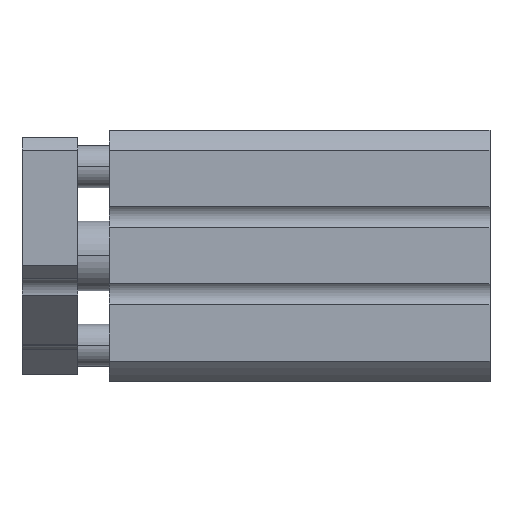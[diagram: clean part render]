
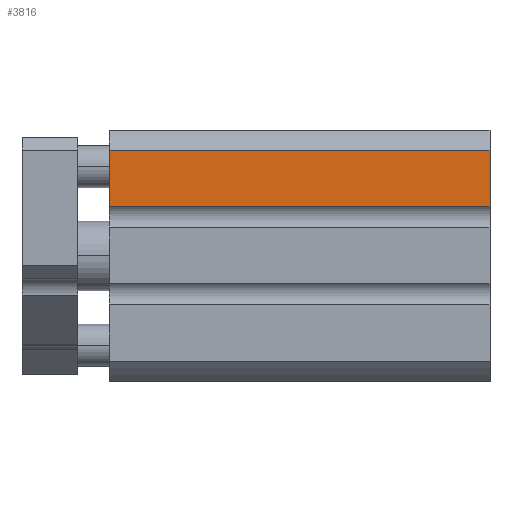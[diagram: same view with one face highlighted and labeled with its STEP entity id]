
A CAD part, top view. The second image highlights one B-rep face of the part: STEP entity #3816.
In plain terms, the highlighted planar face has unit normal (0, 0, 1).
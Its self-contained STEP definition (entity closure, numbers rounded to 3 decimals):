
#134 = AXIS2_PLACEMENT_3D ( 'NONE', #3563, #3540, #2442 ) ;
#180 = PLANE ( 'NONE',  #134 ) ;
#210 = VERTEX_POINT ( 'NONE', #3502 ) ;
#258 = CARTESIAN_POINT ( 'NONE',  ( 0., 7., 18. ) ) ;
#815 = VECTOR ( 'NONE', #3015, 1000. ) ;
#938 = DIRECTION ( 'NONE',  ( 0., -1., 0. ) ) ;
#1162 = CARTESIAN_POINT ( 'NONE',  ( 54.5, 15.108, 18. ) ) ;
#1395 = EDGE_CURVE ( 'NONE', #3720, #210, #3190, .T. ) ;
#1573 = DIRECTION ( 'NONE',  ( -1., 0., 0. ) ) ;
#1862 = CARTESIAN_POINT ( 'NONE',  ( 54.5, 7., 18. ) ) ;
#1944 = CARTESIAN_POINT ( 'NONE',  ( 0., 15.108, 18. ) ) ;
#1993 = VERTEX_POINT ( 'NONE', #258 ) ;
#2126 = VECTOR ( 'NONE', #1573, 1000. ) ;
#2437 = VECTOR ( 'NONE', #938, 1000. ) ;
#2442 = DIRECTION ( 'NONE',  ( 0., -1., 0. ) ) ;
#2623 = LINE ( 'NONE', #1862, #2126 ) ;
#2662 = EDGE_CURVE ( 'NONE', #3720, #4263, #3580, .T. ) ;
#2718 = ORIENTED_EDGE ( 'NONE', *, *, #2662, .T. ) ;
#2729 = ORIENTED_EDGE ( 'NONE', *, *, #2817, .T. ) ;
#2817 = EDGE_CURVE ( 'NONE', #4263, #1993, #4599, .T. ) ;
#3015 = DIRECTION ( 'NONE',  ( -1., 0., 0. ) ) ;
#3190 = LINE ( 'NONE', #4320, #2437 ) ;
#3205 = CARTESIAN_POINT ( 'NONE',  ( 0., 15.108, 18. ) ) ;
#3210 = EDGE_CURVE ( 'NONE', #210, #1993, #2623, .T. ) ;
#3252 = VECTOR ( 'NONE', #4515, 1000. ) ;
#3312 = ORIENTED_EDGE ( 'NONE', *, *, #3210, .F. ) ;
#3502 = CARTESIAN_POINT ( 'NONE',  ( 54.5, 7., 18. ) ) ;
#3540 = DIRECTION ( 'NONE',  ( 0., 0., -1. ) ) ;
#3563 = CARTESIAN_POINT ( 'NONE',  ( 54.5, 15.108, 18. ) ) ;
#3580 = LINE ( 'NONE', #1162, #815 ) ;
#3720 = VERTEX_POINT ( 'NONE', #4556 ) ;
#3725 = EDGE_LOOP ( 'NONE', ( #2729, #3312, #4221, #2718 ) ) ;
#3816 = ADVANCED_FACE ( 'NONE', ( #4256 ), #180, .F. ) ;
#4221 = ORIENTED_EDGE ( 'NONE', *, *, #1395, .F. ) ;
#4256 = FACE_OUTER_BOUND ( 'NONE', #3725, .T. ) ;
#4263 = VERTEX_POINT ( 'NONE', #3205 ) ;
#4320 = CARTESIAN_POINT ( 'NONE',  ( 54.5, 15.108, 18. ) ) ;
#4515 = DIRECTION ( 'NONE',  ( 0., -1., 0. ) ) ;
#4556 = CARTESIAN_POINT ( 'NONE',  ( 54.5, 15.108, 18. ) ) ;
#4599 = LINE ( 'NONE', #1944, #3252 ) ;
